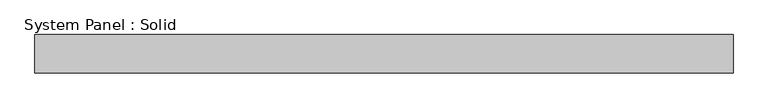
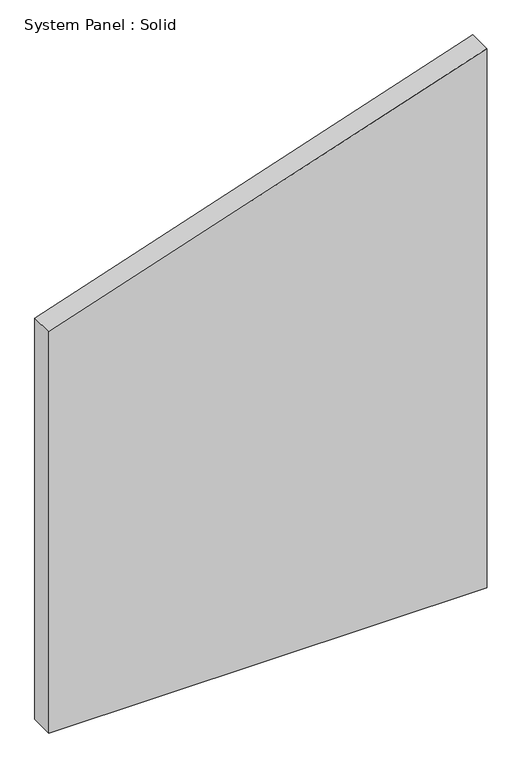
"""IFC4 building model written with IfcOpenShell, lengths in millimetres: plate geometry, System Panel : Solid."""

from ifc_helpers import new_model, si_unit, frame, origin, place, context, project, spatial, polyline, outline, extrude, source, transform, mapped, element, save


def system_panel_solid_a9fdfe61(model_context):
    return source(origin(), model_context, "Body", "SweptSolid", [
        extrude(outline(polyline([(0.0, -549.5), (0.0, 549.5), (1429.3601007, 549.5), (1063.1322357, -549.5), (0.0, -549.5)])), frame((0.0, -10.5, 0.0), z_axis=(0.0, 1.0, 0.0), x_axis=(0.0, 0.0, 1.0)), (0.0, 0.0, 1.0), 60.0),
    ])


if __name__ == "__main__":
    model = new_model("IFC4")
    model_context = context("Model", 3, world=origin())
    ifc_project = project(units=[si_unit("LENGTHUNIT", "METRE", prefix="MILLI")], contexts=[model_context])
    site = spatial("IfcSite", under=ifc_project)
    building = spatial("IfcBuilding", under=site)
    placement = place(None, origin())
    system_panel_solid_shape = system_panel_solid_a9fdfe61(model_context)
    element("IfcPlate", 1, ObjectType="System Panel : Solid", at=placement, inside=building, context=model_context, shape_type="MappedRepresentation", body=[
        mapped(system_panel_solid_shape, transform((0.0, 0.0, 0.0), x_axis=(1.0, 0.0, 0.0), y_axis=(0.0, 1.0, 0.0), z_axis=(0.0, 0.0, 1.0))),
    ])
    save(model, "model.ifc")
